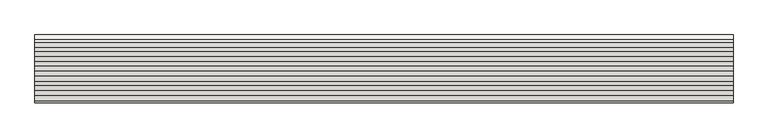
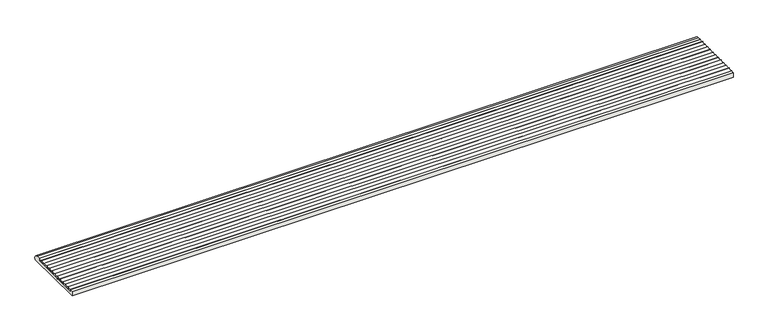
"""IFC4 building model written with IfcOpenShell, lengths in millimetres: slab geometry, ROSA GRES_003 : Pieza 003_Aqua_Marino_Anti-Slip."""

import ifcopenshell
import ifcopenshell.guid

model = None  # the IFC model being written
_history = None  # IfcOwnerHistory: only IFC2X3 demands one
_inside = {}  # id of a spatial element -> (the spatial element, [elements in it])
_under = {}  # id of a project, library or spatial element -> (it, [spatial elements below it])
_declared = {}  # id of a project -> (the project, [libraries it declares])
_typed = {}  # id of a type object -> (the type object, [elements of that type])
_made_of = {}  # id of a material, layer set ... -> (it, [elements and type objects made of it])


def new_model(schema):
    """Start an empty IFC model of exactly this schema.

    Asked for "IFC4X3", IfcOpenShell would pick the latest addendum, in which some entities
    have other attributes; the version numbers below select the first issue.
    IFC2X3 requires an IfcOwnerHistory on every rooted entity: one is made here for all.
    """
    global model, _history
    if schema == "IFC4X3":
        model = ifcopenshell.file(schema_version=(4, 3, 0, 0))
    else:
        model = ifcopenshell.file(schema=schema)
    _inside.clear()
    _under.clear()
    _declared.clear()
    _typed.clear()
    _made_of.clear()
    _history = None
    if model.schema == "IFC2X3":
        org = make("IfcOrganization", Name="unknown")
        user = make(
            "IfcPersonAndOrganization",
            ThePerson=make("IfcPerson", FamilyName="unknown"),
            TheOrganization=org,
        )
        app = make(
            "IfcApplication",
            ApplicationDeveloper=org,
            Version="unknown",
            ApplicationFullName="unknown",
            ApplicationIdentifier="unknown",
        )
        _history = make(
            "IfcOwnerHistory",
            OwningUser=user,
            OwningApplication=app,
            ChangeAction="ADDED",
            CreationDate=0,
        )
    return model


def make(cls, **values):
    """One entity of the class cls with the attributes given. An attribute that is None is left unset."""
    return model.create_entity(
        cls, **{name: value for name, value in values.items() if value is not None}
    )


def rooted(cls, **values):
    """An entity with a GlobalId (a new one), such as an element, a storey or a relation."""
    return make(cls, GlobalId=ifcopenshell.guid.new(), OwnerHistory=_history, **values)


def si_unit(unit_type, name, prefix=None):
    """IfcSIUnit, for example si_unit("LENGTHUNIT", "METRE", prefix="MILLI")."""
    return make("IfcSIUnit", UnitType=unit_type, Prefix=prefix, Name=name)


def assignment(units):
    """IfcUnitAssignment: the units of a project."""
    return None if units is None else make("IfcUnitAssignment", Units=units)


def point(xyz):
    """IfcCartesianPoint."""
    return None if xyz is None else make("IfcCartesianPoint", Coordinates=xyz)


def direction(xyz):
    """IfcDirection."""
    return None if xyz is None else make("IfcDirection", DirectionRatios=xyz)


def frame(location, z_axis=None, x_axis=None):
    """IfcAxis2Placement3D, a coordinate frame: its origin and axes. An axis left out is left unset."""
    return make(
        "IfcAxis2Placement3D",
        Location=point(location),
        Axis=direction(z_axis),
        RefDirection=direction(x_axis),
    )


def frame_2d(location, x_axis=None):
    """IfcAxis2Placement2D, a coordinate frame in the plane: its origin and x axis."""
    return make(
        "IfcAxis2Placement2D", Location=point(location), RefDirection=direction(x_axis)
    )


def origin():
    """The frame at (0, 0, 0) with its axes left unset."""
    return frame((0.0, 0.0, 0.0))


def place(relative_to, where):
    """IfcLocalPlacement: puts the frame where relative to a parent placement (None: the world)."""
    return make(
        "IfcLocalPlacement", PlacementRelTo=relative_to, RelativePlacement=where
    )


def context(
    kind, dimensions, precision=None, world=None, true_north=None, identifier=None
):
    """IfcGeometricRepresentationContext, for example the 3D "Model" context."""
    return make(
        "IfcGeometricRepresentationContext",
        ContextIdentifier=identifier,
        ContextType=kind,
        CoordinateSpaceDimension=dimensions,
        Precision=precision,
        WorldCoordinateSystem=world,
        TrueNorth=true_north,
    )


def project(units=None, contexts=None):
    """IfcProject with its units and contexts."""
    return rooted(
        "IfcProject",
        Name="project",
        RepresentationContexts=contexts,
        UnitsInContext=assignment(units),
    )


def spatial(cls, under=None, at=None, **own):
    """A site, building, storey or space (cls), placed at a placement, below another one or the project."""
    s = rooted(cls, ObjectPlacement=at, **own)
    if under is not None:
        _under.setdefault(under.id(), (under, []))[1].append(s)
    return s


def polyline(points):
    """IfcPolyline through the points."""
    return make("IfcPolyline", Points=[point(p) for p in points])


def circle_curve(where, radius):
    """IfcCircle in the frame where."""
    return make("IfcCircle", Position=where, Radius=radius)


def trimmed(basis, trim1, trim2, sense, master):
    """IfcTrimmedCurve: the piece of a basis curve between two trims."""
    return make(
        "IfcTrimmedCurve",
        BasisCurve=basis,
        Trim1=trim1,
        Trim2=trim2,
        SenseAgreement=sense,
        MasterRepresentation=master,
    )


def segment(curve, same_sense, transition):
    """IfcCompositeCurveSegment."""
    return make(
        "IfcCompositeCurveSegment",
        Transition=transition,
        SameSense=same_sense,
        ParentCurve=curve,
    )


def composite_curve(segments, self_intersect=None):
    """IfcCompositeCurve: segments joined end to end."""
    return make("IfcCompositeCurve", Segments=segments, SelfIntersect=self_intersect)


def outline(outer, holes=None, kind="AREA"):
    """IfcArbitraryClosedProfileDef: a profile drawn as a closed curve; with holes, ...WithVoids."""
    if holes is None:
        return make("IfcArbitraryClosedProfileDef", ProfileType=kind, OuterCurve=outer)
    return make(
        "IfcArbitraryProfileDefWithVoids",
        ProfileType=kind,
        OuterCurve=outer,
        InnerCurves=holes,
    )


def extrude(swept, where, along, depth):
    """IfcExtrudedAreaSolid: the profile swept, set in the frame where, extruded along a direction by depth."""
    return make(
        "IfcExtrudedAreaSolid",
        SweptArea=swept,
        Position=where,
        ExtrudedDirection=direction(along),
        Depth=depth,
    )


def shape(context_of_items, identifier, shape_type, items):
    """IfcShapeRepresentation: the items that make up one representation, for example the "Body"."""
    return make(
        "IfcShapeRepresentation",
        ContextOfItems=context_of_items,
        RepresentationIdentifier=identifier,
        RepresentationType=shape_type,
        Items=items,
    )


def source(mapping_origin, context_of_items, identifier, shape_type, items):
    """IfcRepresentationMap: a shape defined once, which mapped items show again and again."""
    return make(
        "IfcRepresentationMap",
        MappingOrigin=mapping_origin,
        MappedRepresentation=shape(context_of_items, identifier, shape_type, items),
    )


def transform(
    local_origin,
    x_axis=None,
    y_axis=None,
    z_axis=None,
    scale=None,
    scale2=None,
    scale3=None,
    uniform=True,
):
    """IfcCartesianTransformationOperator3D, or its non-uniform kind. x_axis, y_axis, z_axis: its Axis1, 2, 3."""
    if uniform:
        return make(
            "IfcCartesianTransformationOperator3D",
            Axis1=direction(x_axis),
            Axis2=direction(y_axis),
            LocalOrigin=point(local_origin),
            Scale=scale,
            Axis3=direction(z_axis),
        )
    return make(
        "IfcCartesianTransformationOperator3DnonUniform",
        Axis1=direction(x_axis),
        Axis2=direction(y_axis),
        LocalOrigin=point(local_origin),
        Scale=scale,
        Axis3=direction(z_axis),
        Scale2=scale2,
        Scale3=scale3,
    )


def mapped(mapping_source, mapping_target):
    """IfcMappedItem: shows the shape of a source again, moved by a transform."""
    return make(
        "IfcMappedItem", MappingSource=mapping_source, MappingTarget=mapping_target
    )


def made_of(thing, what):
    """Note that an element or type object is made of a material, layer set ...; save() writes the relation."""
    if what is not None:
        _made_of.setdefault(what.id(), (what, []))[1].append(thing)
    return thing


def element(
    cls,
    number,
    at=None,
    inside=None,
    cuts=None,
    type_object=None,
    material=None,
    context=None,
    identifier="Body",
    shape_type=None,
    held_by="IfcProductDefinitionShape",
    body=None,
    shapes=None,
    **own,
):
    """One element of the class cls, such as IfcWall. Its Tag is "e" and its number.

    at: its placement. inside: the storey or other place that contains it. cuts: it is an
    opening in that element (IfcRelVoidsElement). A single representation is given by context,
    identifier, shape_type and body (its items); several are given by shapes. held_by: the class
    of the entity that holds the representations. save() writes the other relations.
    """
    e = rooted(cls, Tag="e%d" % number, ObjectPlacement=at, **own)
    if body is not None:
        shapes = [shape(context, identifier, shape_type, body)]
    if shapes is not None:
        e.Representation = make(held_by, Representations=shapes)
    if inside is not None:
        _inside.setdefault(inside.id(), (inside, []))[1].append(e)
    if cuts is not None:
        rooted(
            "IfcRelVoidsElement", RelatingBuildingElement=cuts, RelatedOpeningElement=e
        )
    if type_object is not None:
        _typed.setdefault(type_object.id(), (type_object, []))[1].append(e)
    return made_of(e, material)


def aggregate(whole, parts):
    """IfcRelAggregates: a whole, such as a stair, and the parts it consists of."""
    return rooted("IfcRelAggregates", RelatingObject=whole, RelatedObjects=parts)


def save(model, path):
    """Write the relations noted so far, then the file.

    IfcRelAggregates (storeys below a building ...), IfcRelContainedInSpatialStructure (elements
    in a storey), IfcRelDefinesByType, IfcRelAssociatesMaterial and IfcRelDeclares: one each for
    every whole, place, type object, material and project.
    """
    for whole, parts in _under.values():
        aggregate(whole, parts)
    for where, things in _inside.values():
        rooted(
            "IfcRelContainedInSpatialStructure",
            RelatedElements=things,
            RelatingStructure=where,
        )
    for kind, things in _typed.values():
        rooted("IfcRelDefinesByType", RelatedObjects=things, RelatingType=kind)
    for what, things in _made_of.values():
        rooted("IfcRelAssociatesMaterial", RelatedObjects=things, RelatingMaterial=what)
    for by, libraries in _declared.values():
        rooted("IfcRelDeclares", RelatingContext=by, RelatedDefinitions=libraries)
    model.write(path)


def slab_17d3c6e7(model_context):
    return source(origin(), model_context, "Body", "SweptSolid", [
        extrude(outline(composite_curve([segment(trimmed(circle_curve(frame_2d((-7.6419163, 1.7573601)), 7.7398374), [point((-7.6419163, 9.4971975))], [point((0.0, 2.9846331))], False, "CARTESIAN"), True, "CONTINUOUS"), segment(trimmed(circle_curve(frame_2d((-1.9104791, 2.6778148)), 1.9349594), [point((0.0, 2.9846331))], [point((-0.5422562, 1.309592))], False, "CARTESIAN"), True, "CONTINUOUS"), segment(polyline([(-0.5422562, 1.309592), (-1.8518481, 0.0), (-118.9168888, 0.0), (-118.9168888, 8.0603545)]), True, "CONTINUOUS"), segment(trimmed(circle_curve(frame_2d((-118.9168888, 13.6516438)), 5.5912893), [point((-118.9168888, 8.0603545))], [point((-114.6668888, 10.0184612))], True, "CARTESIAN"), True, "CONTINUOUS"), segment(polyline([(-114.6668888, 10.0184612), (-114.6668888, 4.0921512), (-13.1748183, 4.0921512), (-13.1748183, 9.4971975), (-7.6419163, 9.4971975)]), True, "CONTINUOUS")], self_intersect=False)), frame((0.0, 0.0, 0.0), z_axis=(1.0, 0.0, 0.0), x_axis=(0.0, 1.0, 0.0)), (0.0, 0.0, 1.0), 1220.0),
        extrude(outline(composite_curve([segment(polyline([(-106.1668888, 10.0184612), (-106.1668888, 4.0921512), (-114.6668888, 4.0921512), (-114.6668888, 10.0184612)]), True, "CONTINUOUS"), segment(trimmed(circle_curve(frame_2d((-110.4168888, 13.6516438)), 5.5912893), [point((-114.6668888, 10.0184612))], [point((-106.1668888, 10.0184612))], True, "CARTESIAN"), True, "CONTINUOUS")], self_intersect=False)), frame((0.0, 0.0, 0.0), z_axis=(1.0, 0.0, 0.0), x_axis=(0.0, 1.0, 0.0)), (0.0, 0.0, 1.0), 1220.0),
        extrude(outline(polyline([(1220.0, -89.1668888), (0.0, -89.1668888), (0.0, -72.1668888), (1220.0, -72.1668888), (1220.0, -89.1668888)])), frame((0.0, 0.0, 4.0921512), z_axis=(0.0, 0.0, 1.0), x_axis=(1.0, 0.0, 0.0)), (0.0, 0.0, 1.0), 2.92631),
        extrude(outline(polyline([(1220.0, -55.1668888), (0.0, -55.1668888), (0.0, -38.1668888), (1220.0, -38.1668888), (1220.0, -55.1668888)])), frame((0.0, 0.0, 4.0921512), z_axis=(0.0, 0.0, 1.0), x_axis=(1.0, 0.0, 0.0)), (0.0, 0.0, 1.0), 2.92631),
        extrude(outline(composite_curve([segment(polyline([(-13.1748183, 9.4971975), (-13.1748183, 4.0921512), (-21.1668888, 4.0921512), (-21.1668888, 10.0184612)]), True, "CONTINUOUS"), segment(trimmed(circle_curve(frame_2d((-16.9168888, 13.6516438)), 5.5912893), [point((-21.1668888, 10.0184612))], [point((-13.1748183, 9.4971975))], True, "CARTESIAN"), True, "CONTINUOUS")], self_intersect=False)), frame((0.0, 0.0, 0.0), z_axis=(1.0, 0.0, 0.0), x_axis=(0.0, 1.0, 0.0)), (0.0, 0.0, 1.0), 1220.0),
        extrude(outline(composite_curve([segment(polyline([(-21.1668888, 10.0221512), (-21.1668888, 4.0921512), (-38.1668888, 4.0921512), (-38.1668888, 7.0184612), (-55.1668888, 7.0184612), (-55.1668888, 4.0921512), (-72.1668888, 4.0921512), (-72.1668888, 7.0184612), (-89.1668888, 7.0184612), (-89.1668888, 4.0921512), (-106.1668888, 4.0921512), (-106.1668888, 10.0221512)]), True, "CONTINUOUS"), segment(trimmed(circle_curve(frame_2d((-101.9168888, 13.6553338)), 5.5912893), [point((-106.1668888, 10.0221512))], [point((-97.6668888, 10.0221512))], True, "CARTESIAN"), True, "CONTINUOUS"), segment(trimmed(circle_curve(frame_2d((-93.4168888, 13.6553338)), 5.5912893), [point((-97.6668888, 10.0221512))], [point((-89.1668888, 10.0221512))], True, "CARTESIAN"), True, "CONTINUOUS"), segment(trimmed(circle_curve(frame_2d((-84.9168888, 13.6553338)), 5.5912893), [point((-89.1668888, 10.0221512))], [point((-80.6668888, 10.0221512))], True, "CARTESIAN"), True, "CONTINUOUS"), segment(trimmed(circle_curve(frame_2d((-76.4168888, 13.6553338)), 5.5912893), [point((-80.6668888, 10.0221512))], [point((-72.1668888, 10.0221512))], True, "CARTESIAN"), True, "CONTINUOUS"), segment(trimmed(circle_curve(frame_2d((-67.9168888, 13.6553338)), 5.5912893), [point((-72.1668888, 10.0221512))], [point((-63.6668888, 10.0221512))], True, "CARTESIAN"), True, "CONTINUOUS"), segment(trimmed(circle_curve(frame_2d((-59.4168888, 13.6553338)), 5.5912893), [point((-63.6668888, 10.0221512))], [point((-55.1668888, 10.0221512))], True, "CARTESIAN"), True, "CONTINUOUS"), segment(trimmed(circle_curve(frame_2d((-50.9168888, 13.6553338)), 5.5912893), [point((-55.1668888, 10.0221512))], [point((-46.6668888, 10.0221512))], True, "CARTESIAN"), True, "CONTINUOUS"), segment(trimmed(circle_curve(frame_2d((-42.4168888, 13.6553338)), 5.5912893), [point((-46.6668888, 10.0221512))], [point((-38.1668888, 10.0221512))], True, "CARTESIAN"), True, "CONTINUOUS"), segment(trimmed(circle_curve(frame_2d((-33.9168888, 13.6553338)), 5.5912893), [point((-38.1668888, 10.0221512))], [point((-29.6668888, 10.0221512))], True, "CARTESIAN"), True, "CONTINUOUS"), segment(trimmed(circle_curve(frame_2d((-25.4168888, 13.6553338)), 5.5912893), [point((-29.6668888, 10.0221512))], [point((-21.1668888, 10.0221512))], True, "CARTESIAN"), True, "CONTINUOUS")], self_intersect=False)), frame((0.0, 0.0, 0.0), z_axis=(1.0, 0.0, 0.0), x_axis=(0.0, 1.0, 0.0)), (0.0, 0.0, 1.0), 1220.0),
    ])


if __name__ == "__main__":
    model = new_model("IFC4")
    model_context = context("Model", 3, world=origin())
    ifc_project = project(units=[si_unit("LENGTHUNIT", "METRE", prefix="MILLI")], contexts=[model_context])
    site = spatial("IfcSite", under=ifc_project)
    building = spatial("IfcBuilding", under=site)
    placement = place(None, origin())
    slab_shape = slab_17d3c6e7(model_context)
    element("IfcSlab", 1, ObjectType="ROSA GRES_003 : Pieza 003_Aqua_Marino_Anti-Slip", at=placement, inside=building, context=model_context, shape_type="MappedRepresentation", body=[
        mapped(slab_shape, transform((0.0, 0.0, 0.0), x_axis=(1.0, 0.0, 0.0), y_axis=(0.0, 1.0, 0.0), z_axis=(0.0, 0.0, 1.0))),
    ])
    save(model, "model.ifc")
